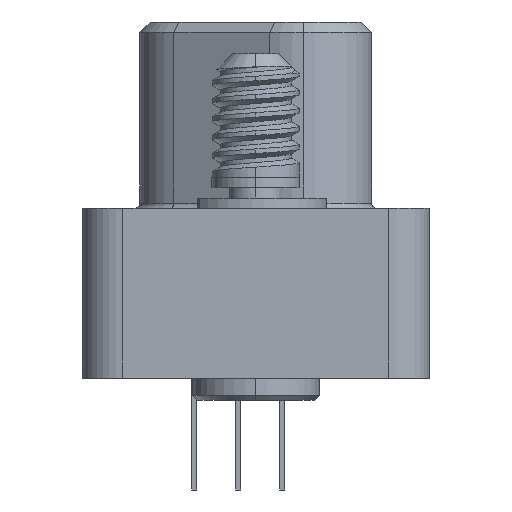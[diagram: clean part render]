
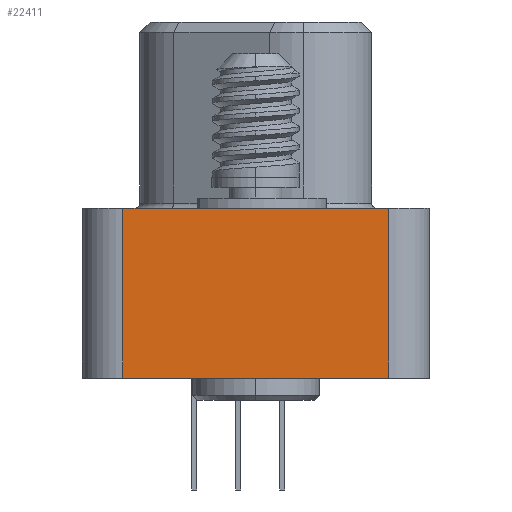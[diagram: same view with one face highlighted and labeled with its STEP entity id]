
A CAD part, left-side view. The second image highlights one B-rep face of the part: STEP entity #22411.
In plain terms, the highlighted planar face has unit normal (-1, 0, 0).
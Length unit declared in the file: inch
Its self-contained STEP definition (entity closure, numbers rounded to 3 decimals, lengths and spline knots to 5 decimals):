
#1092 = LINE ( 'NONE', #22272, #27503 ) ;
#5451 = VERTEX_POINT ( 'NONE', #12217 ) ;
#6382 = VECTOR ( 'NONE', #35172, 39.37008 ) ;
#7380 = DIRECTION ( 'NONE',  ( 0., 1., 0. ) ) ;
#7982 = EDGE_CURVE ( 'NONE', #24097, #5451, #37641, .T. ) ;
#9786 = PLANE ( 'NONE',  #25678 ) ;
#9989 = CARTESIAN_POINT ( 'NONE',  ( -0.8625, -0.1306, -0.125 ) ) ;
#10127 = VERTEX_POINT ( 'NONE', #25509 ) ;
#11079 = EDGE_CURVE ( 'NONE', #5451, #17007, #41856, .T. ) ;
#11492 = CARTESIAN_POINT ( 'NONE',  ( -0.8625, -0.1306, 0.042 ) ) ;
#11600 = VECTOR ( 'NONE', #7380, 39.37008 ) ;
#12217 = CARTESIAN_POINT ( 'NONE',  ( -0.8625, -0.1306, -0.125 ) ) ;
#13989 = ORIENTED_EDGE ( 'NONE', *, *, #36228, .T. ) ;
#17007 = VERTEX_POINT ( 'NONE', #26987 ) ;
#17317 = DIRECTION ( 'NONE',  ( 0., 0., -1. ) ) ;
#19180 = ORIENTED_EDGE ( 'NONE', *, *, #11079, .F. ) ;
#19208 = CARTESIAN_POINT ( 'NONE',  ( -0.8625, -0.1306, 0.042 ) ) ;
#21936 = ORIENTED_EDGE ( 'NONE', *, *, #28540, .T. ) ;
#22190 = ORIENTED_EDGE ( 'NONE', *, *, #7982, .F. ) ;
#22272 = CARTESIAN_POINT ( 'NONE',  ( -0.8625, -0.1306, 0.042 ) ) ;
#22411 = ADVANCED_FACE ( 'NONE', ( #27966 ), #9786, .T. ) ;
#24097 = VERTEX_POINT ( 'NONE', #19208 ) ;
#24612 = CARTESIAN_POINT ( 'NONE',  ( -0.8625, 0.1304, 0.042 ) ) ;
#25509 = CARTESIAN_POINT ( 'NONE',  ( -0.8625, 0.1304, 0.042 ) ) ;
#25678 = AXIS2_PLACEMENT_3D ( 'NONE', #37229, #37525, #27110 ) ;
#26205 = DIRECTION ( 'NONE',  ( 0., 1., 0. ) ) ;
#26987 = CARTESIAN_POINT ( 'NONE',  ( -0.8625, 0.1304, -0.125 ) ) ;
#27110 = DIRECTION ( 'NONE',  ( 0., 0., 1. ) ) ;
#27503 = VECTOR ( 'NONE', #26205, 39.37008 ) ;
#27966 = FACE_OUTER_BOUND ( 'NONE', #40835, .T. ) ;
#28540 = EDGE_CURVE ( 'NONE', #24097, #10127, #1092, .T. ) ;
#35172 = DIRECTION ( 'NONE',  ( 0., 0., -1. ) ) ;
#36228 = EDGE_CURVE ( 'NONE', #10127, #17007, #44137, .T. ) ;
#37229 = CARTESIAN_POINT ( 'NONE',  ( -0.8625, -0.1306, 0.042 ) ) ;
#37525 = DIRECTION ( 'NONE',  ( -1., 0., 0. ) ) ;
#37641 = LINE ( 'NONE', #11492, #6382 ) ;
#40324 = VECTOR ( 'NONE', #17317, 39.37008 ) ;
#40835 = EDGE_LOOP ( 'NONE', ( #13989, #19180, #22190, #21936 ) ) ;
#41856 = LINE ( 'NONE', #9989, #11600 ) ;
#44137 = LINE ( 'NONE', #24612, #40324 ) ;
